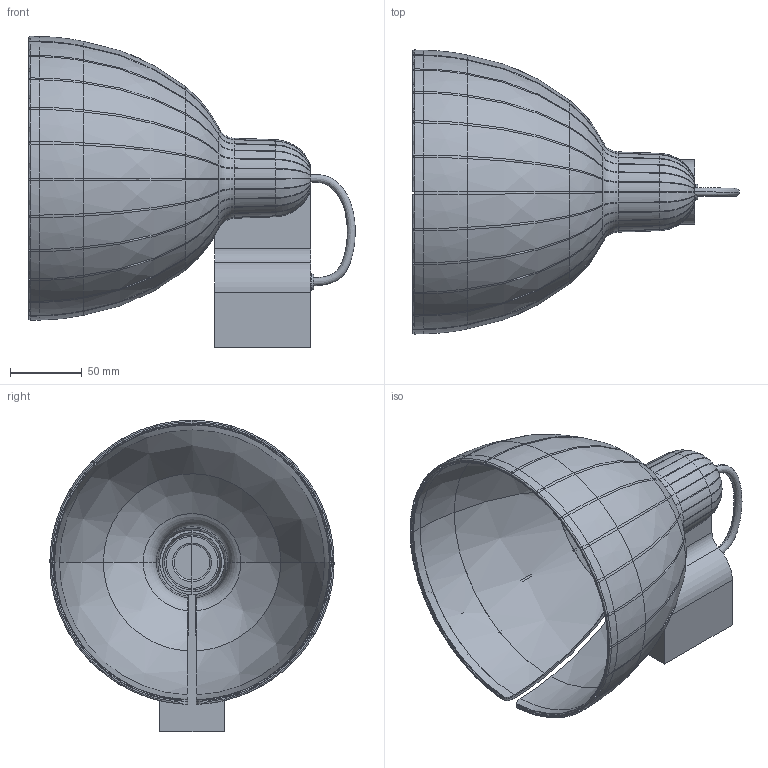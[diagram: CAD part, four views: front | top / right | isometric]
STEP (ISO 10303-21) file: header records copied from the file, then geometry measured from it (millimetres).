
FILE_DESCRIPTION(/* description */ (''),/* implementation_level */ '2;1');
FILE_NAME(/* name */ '64273.step',/* time_stamp */ '2024-05-10T10:03:34+02:00',/* author */ ('RenataManzini'),/* organization */ (''),/* preprocessor_version */ 'ST-DEVELOPER v20',/* originating_system */ 'AutoCAD Mechanical',/* authorisation */ '');
FILE_SCHEMA (('AUTOMOTIVE_DESIGN { 1 0 10303 214 3 1 1 }'));
Products named in the file (2): Product; VENICE_W - 29891 ORA LED Black spotlight-636175-_3D_
Assembly tree (1 placements, depth 2):
  Product
    VENICE_W - 29891 ORA LED Black spotlight-636175-_3D_
Bounding box: 227.66 x 197.96 x 216.98 mm (x, y, z)
Volume: 189886.1 mm3; surface area: 449166.7 mm2
Topology: 8 solids, 53 shells, 1032 faces, 3284 edges, 2294 vertices
Faces by surface type: bspline 402, cone 219, plane 198, torus 152, cylinder 51, sphere 10
Entity records: 48615 total; most frequent: CARTESIAN_POINT 21567, ORIENTED_EDGE 5902, DIRECTION 5265, EDGE_CURVE 3281, VERTEX_POINT 2289, AXIS2_PLACEMENT_3D 2175, CIRCLE 1542, EDGE_LOOP 1042
